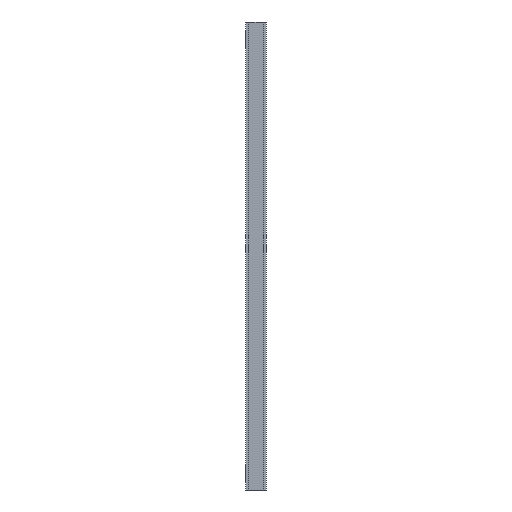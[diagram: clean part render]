
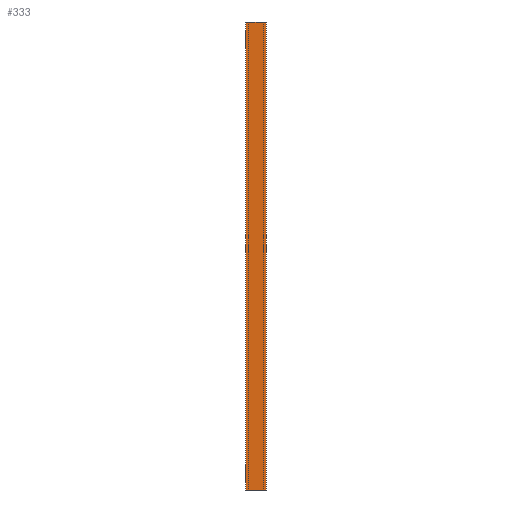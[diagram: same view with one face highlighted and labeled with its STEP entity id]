
A CAD part, left-side view. The second image highlights one B-rep face of the part: STEP entity #333.
In plain terms, the highlighted planar face has unit normal (-1, 0, 0).
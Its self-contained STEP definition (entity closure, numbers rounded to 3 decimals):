
#40 = DIRECTION ( 'NONE',  ( 0., 0., -1. ) ) ;
#58 = AXIS2_PLACEMENT_3D ( 'NONE', #1762, #559, #109 ) ;
#63 = DIRECTION ( 'NONE',  ( 0., 0., -1. ) ) ;
#79 = LINE ( 'NONE', #1001, #557 ) ;
#105 = LINE ( 'NONE', #963, #838 ) ;
#109 = DIRECTION ( 'NONE',  ( 0., 0., 1. ) ) ;
#125 = DIRECTION ( 'NONE',  ( 0., 1., 0. ) ) ;
#225 = LINE ( 'NONE', #518, #985 ) ;
#227 = VERTEX_POINT ( 'NONE', #1325 ) ;
#275 = DIRECTION ( 'NONE',  ( 0., 1., 0. ) ) ;
#278 = EDGE_CURVE ( 'NONE', #362, #1283, #1335, .T. ) ;
#288 = DIRECTION ( 'NONE',  ( 0., 1., 0. ) ) ;
#316 = CARTESIAN_POINT ( 'NONE',  ( -8., 9.3, 0. ) ) ;
#333 = ADVANCED_FACE ( 'NONE', ( #1088 ), #1097, .T. ) ;
#351 = ORIENTED_EDGE ( 'NONE', *, *, #836, .F. ) ;
#352 = VECTOR ( 'NONE', #275, 1000. ) ;
#362 = VERTEX_POINT ( 'NONE', #1636 ) ;
#384 = DIRECTION ( 'NONE',  ( 0., 1., 0. ) ) ;
#399 = VERTEX_POINT ( 'NONE', #316 ) ;
#400 = VERTEX_POINT ( 'NONE', #864 ) ;
#450 = CARTESIAN_POINT ( 'NONE',  ( -8., 12.5, 279. ) ) ;
#495 = ORIENTED_EDGE ( 'NONE', *, *, #1493, .T. ) ;
#518 = CARTESIAN_POINT ( 'NONE',  ( -8., 12.5, 279. ) ) ;
#557 = VECTOR ( 'NONE', #1544, 1000. ) ;
#559 = DIRECTION ( 'NONE',  ( -1., 0., 0. ) ) ;
#648 = LINE ( 'NONE', #1608, #669 ) ;
#669 = VECTOR ( 'NONE', #1340, 1000. ) ;
#717 = EDGE_CURVE ( 'NONE', #1596, #399, #105, .T. ) ;
#749 = LINE ( 'NONE', #760, #1540 ) ;
#760 = CARTESIAN_POINT ( 'NONE',  ( -8., 0., 279. ) ) ;
#792 = ORIENTED_EDGE ( 'NONE', *, *, #717, .F. ) ;
#824 = LINE ( 'NONE', #1364, #1193 ) ;
#830 = EDGE_CURVE ( 'NONE', #362, #1028, #79, .T. ) ;
#836 = EDGE_CURVE ( 'NONE', #1028, #227, #749, .T. ) ;
#838 = VECTOR ( 'NONE', #384, 1000. ) ;
#844 = ORIENTED_EDGE ( 'NONE', *, *, #278, .T. ) ;
#858 = LINE ( 'NONE', #1395, #1139 ) ;
#864 = CARTESIAN_POINT ( 'NONE',  ( -8., 12.5, 0. ) ) ;
#963 = CARTESIAN_POINT ( 'NONE',  ( -8., 0., 0. ) ) ;
#985 = VECTOR ( 'NONE', #125, 1000. ) ;
#1001 = CARTESIAN_POINT ( 'NONE',  ( -8., 0., 279. ) ) ;
#1028 = VERTEX_POINT ( 'NONE', #1462 ) ;
#1041 = ORIENTED_EDGE ( 'NONE', *, *, #1094, .T. ) ;
#1057 = EDGE_CURVE ( 'NONE', #1283, #1267, #225, .T. ) ;
#1088 = FACE_OUTER_BOUND ( 'NONE', #1206, .T. ) ;
#1094 = EDGE_CURVE ( 'NONE', #1596, #227, #648, .T. ) ;
#1097 = PLANE ( 'NONE',  #58 ) ;
#1139 = VECTOR ( 'NONE', #40, 1000. ) ;
#1193 = VECTOR ( 'NONE', #288, 1000. ) ;
#1206 = EDGE_LOOP ( 'NONE', ( #792, #1041, #351, #1564, #844, #1735, #495, #1393 ) ) ;
#1267 = VERTEX_POINT ( 'NONE', #450 ) ;
#1283 = VERTEX_POINT ( 'NONE', #1537 ) ;
#1325 = CARTESIAN_POINT ( 'NONE',  ( -8., 0., 0. ) ) ;
#1335 = LINE ( 'NONE', #1500, #352 ) ;
#1340 = DIRECTION ( 'NONE',  ( 0., -1., 0. ) ) ;
#1364 = CARTESIAN_POINT ( 'NONE',  ( -8., 0., 0. ) ) ;
#1393 = ORIENTED_EDGE ( 'NONE', *, *, #1648, .F. ) ;
#1395 = CARTESIAN_POINT ( 'NONE',  ( -8., 12.5, 279. ) ) ;
#1462 = CARTESIAN_POINT ( 'NONE',  ( -8., 0., 279. ) ) ;
#1493 = EDGE_CURVE ( 'NONE', #1267, #400, #858, .T. ) ;
#1500 = CARTESIAN_POINT ( 'NONE',  ( -8., 0., 279. ) ) ;
#1537 = CARTESIAN_POINT ( 'NONE',  ( -8., 9.3, 279. ) ) ;
#1540 = VECTOR ( 'NONE', #63, 1000. ) ;
#1544 = DIRECTION ( 'NONE',  ( 0., -1., 0. ) ) ;
#1564 = ORIENTED_EDGE ( 'NONE', *, *, #830, .F. ) ;
#1596 = VERTEX_POINT ( 'NONE', #1731 ) ;
#1608 = CARTESIAN_POINT ( 'NONE',  ( -8., 0., 0. ) ) ;
#1636 = CARTESIAN_POINT ( 'NONE',  ( -8., 3.2, 279. ) ) ;
#1648 = EDGE_CURVE ( 'NONE', #399, #400, #824, .T. ) ;
#1731 = CARTESIAN_POINT ( 'NONE',  ( -8., 3.2, 0. ) ) ;
#1735 = ORIENTED_EDGE ( 'NONE', *, *, #1057, .T. ) ;
#1762 = CARTESIAN_POINT ( 'NONE',  ( -8., 0., 279. ) ) ;
